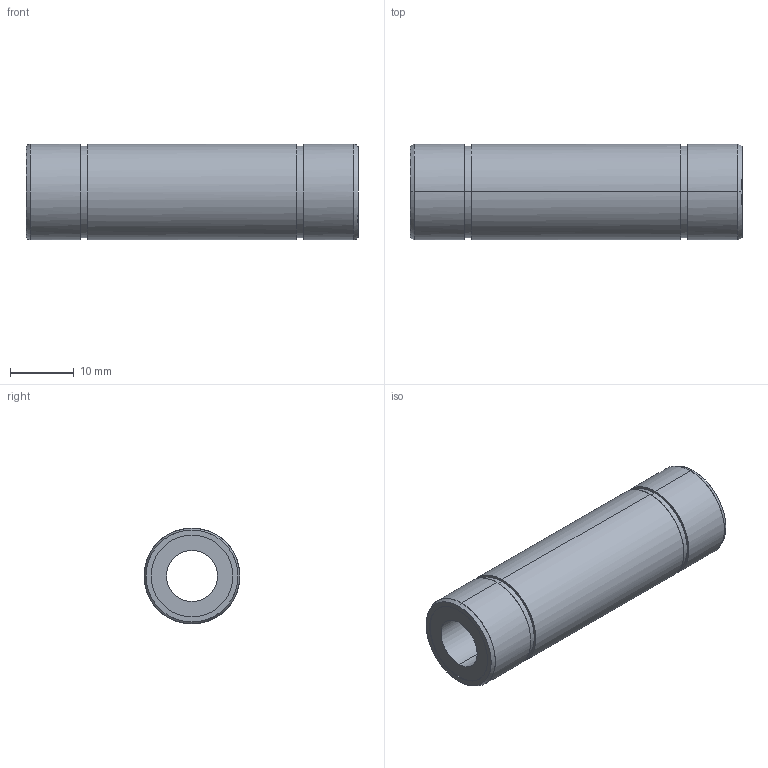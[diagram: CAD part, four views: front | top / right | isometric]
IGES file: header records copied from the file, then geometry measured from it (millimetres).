
Global section: file name: No Iges File Name specified; native system: AutoDesk Inventor R10; preprocessor: AutoDesk Inventor Iges Exporter R10; author: No Author specified; organization: No Organization specified; date: 20101216.152635; units: millimetre
Bounding box: 52 x 15 x 15 mm (x, y, z)
Surface area: 4050.4 mm2 (no closed solid volume)
Topology: 0 solids, 0 shells, 28 faces, 184 edges, 184 vertices
Faces by surface type: bspline 28
